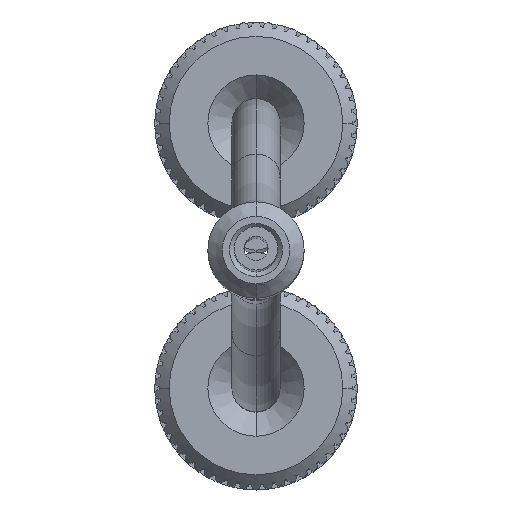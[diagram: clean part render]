
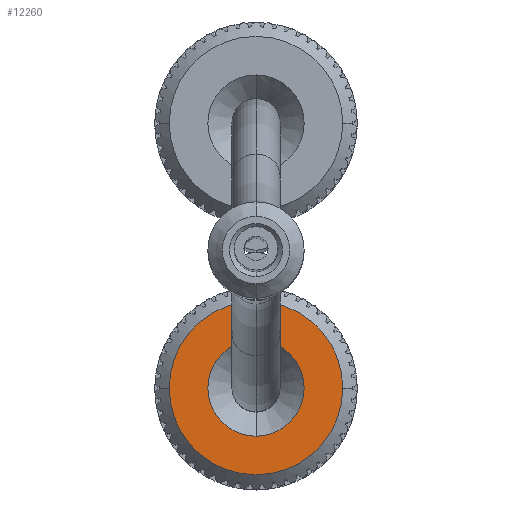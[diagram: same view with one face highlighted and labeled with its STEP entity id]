
A CAD part, top view. The second image highlights one B-rep face of the part: STEP entity #12260.
In plain terms, the highlighted planar face has unit normal (0, 0, 1) as drawn and (-1, 0, 0) by its records, which use the part's own axes.
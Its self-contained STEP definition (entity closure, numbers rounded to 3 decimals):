
#5346=CARTESIAN_POINT('',(0.,0.,0.));
#5347=DIRECTION('',(1.,0.,0.));
#5348=DIRECTION('',(0.,0.,1.));
#5349=AXIS2_PLACEMENT_3D('',#5346,#5347,#5348);
#5351=CARTESIAN_POINT('',(0.,0.,0.));
#5352=DIRECTION('',(1.,0.,0.));
#5353=DIRECTION('',(0.,0.,-1.));
#5354=AXIS2_PLACEMENT_3D('',#5351,#5352,#5353);
#5356=CARTESIAN_POINT('',(0.,0.,0.));
#5357=DIRECTION('',(-1.,0.,0.));
#5358=DIRECTION('',(0.,1.,0.));
#5359=AXIS2_PLACEMENT_3D('',#5356,#5357,#5358);
#5361=CARTESIAN_POINT('',(0.,0.,0.));
#5362=DIRECTION('',(-1.,0.,0.));
#5363=DIRECTION('',(0.,0.,-1.));
#5364=AXIS2_PLACEMENT_3D('',#5361,#5362,#5363);
#5366=CARTESIAN_POINT('',(0.,0.,0.));
#5367=DIRECTION('',(-1.,0.,0.));
#5368=DIRECTION('',(0.,-1.,0.));
#5369=AXIS2_PLACEMENT_3D('',#5366,#5367,#5368);
#5371=CARTESIAN_POINT('',(0.,0.,0.));
#5372=DIRECTION('',(-1.,0.,0.));
#5373=DIRECTION('',(0.,0.,1.));
#5374=AXIS2_PLACEMENT_3D('',#5371,#5372,#5373);
#7492=CARTESIAN_POINT('',(0.,0.,1.));
#7493=CARTESIAN_POINT('',(0.,1.,0.));
#7494=VERTEX_POINT('',#7492);
#7495=VERTEX_POINT('',#7493);
#7496=CARTESIAN_POINT('',(0.,-1.,0.));
#7497=VERTEX_POINT('',#7496);
#7498=CARTESIAN_POINT('',(0.,0.,1.8));
#7499=CARTESIAN_POINT('',(0.,0.,-1.8));
#7500=VERTEX_POINT('',#7498);
#7501=VERTEX_POINT('',#7499);
#7502=CARTESIAN_POINT('',(0.,0.,-1.));
#7503=VERTEX_POINT('',#7502);
#12241=CARTESIAN_POINT('',(0.,0.,0.));
#12242=DIRECTION('',(1.,0.,0.));
#12243=DIRECTION('',(0.,-1.,0.));
#12244=AXIS2_PLACEMENT_3D('',#12241,#12242,#12243);
#12245=PLANE('',#12244);
#12246=ORIENTED_EDGE('',*,*,#9053,.T.);
#12247=ORIENTED_EDGE('',*,*,#9228,.T.);
#12248=EDGE_LOOP('',(#12246,#12247));
#12249=FACE_OUTER_BOUND('',#12248,.F.);
#12251=ORIENTED_EDGE('',*,*,#12250,.T.);
#12253=ORIENTED_EDGE('',*,*,#12252,.T.);
#12255=ORIENTED_EDGE('',*,*,#12254,.T.);
#12257=ORIENTED_EDGE('',*,*,#12256,.T.);
#12258=EDGE_LOOP('',(#12251,#12253,#12255,#12257));
#12259=FACE_BOUND('',#12258,.F.);
#12260=ADVANCED_FACE('',(#12249,#12259),#12245,.F.);
#5350=CIRCLE('',#5349,1.8);
#5355=CIRCLE('',#5354,1.8);
#5360=CIRCLE('',#5359,1.);
#5365=CIRCLE('',#5364,1.);
#5370=CIRCLE('',#5369,1.);
#5375=CIRCLE('',#5374,1.);
#9053=EDGE_CURVE('',#7500,#7501,#5350,.T.);
#9228=EDGE_CURVE('',#7501,#7500,#5355,.T.);
#12250=EDGE_CURVE('',#7495,#7503,#5360,.T.);
#12252=EDGE_CURVE('',#7503,#7497,#5365,.T.);
#12254=EDGE_CURVE('',#7497,#7494,#5370,.T.);
#12256=EDGE_CURVE('',#7494,#7495,#5375,.T.);
